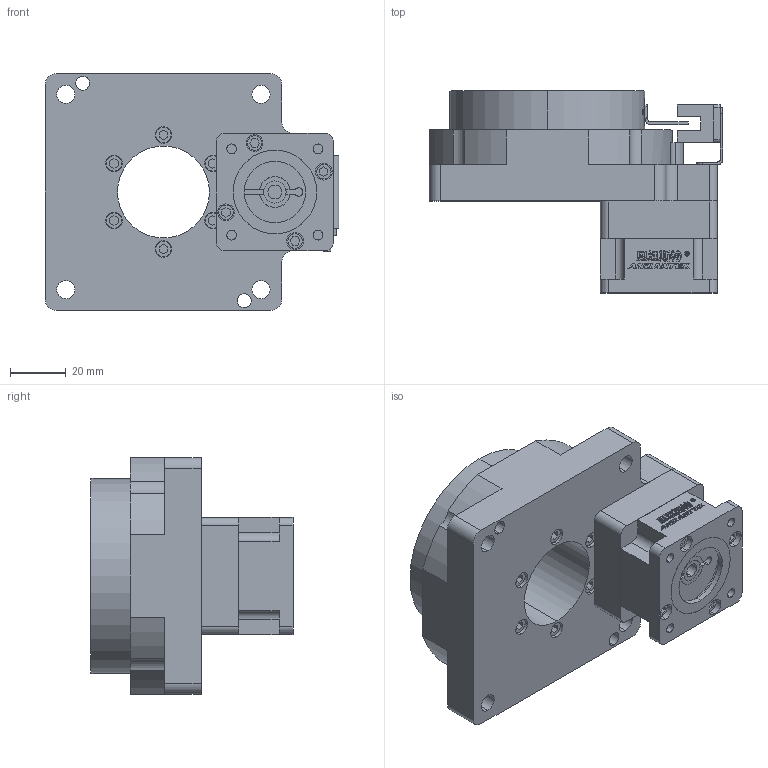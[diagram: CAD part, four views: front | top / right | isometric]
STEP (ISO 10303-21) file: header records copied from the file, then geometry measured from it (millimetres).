
FILE_DESCRIPTION(('Open CASCADE Model'),'2;1');
FILE_NAME('Open CASCADE Shape Model','2026-10-11T03:04:35',('Author'),( 'Open CASCADE'),'Open CASCADE STEP processor 7.8','Open CASCADE 7.8' ,'Unknown');
FILE_SCHEMA(('AUTOMOTIVE_DESIGN { 1 0 10303 214 1 1 1 1 }'));
Length unit declared in the file: millimetre
Products named in the file (3): NT85-15(配42步进 输入5-30 22-5 4-3.5-31-31); NT85-15(配42步进 输入5-30 22-5 4-3.5-31-31)-01; NT85-15(配42步进 输入5-30 22-5 4-3.5-31-31)-02
Assembly tree (2 placements, depth 2):
  NT85-15(配42步进 输入5-30 22-5 4-3.5-31-31)
    NT85-15(配42步进 输入5-30 22-5 4-3.5-31-31)-01
    NT85-15(配42步进 输入5-30 22-5 4-3.5-31-31)-02
Bounding box: 105.5 x 72.5 x 85 mm (x, y, z)
Volume: 243002.2 mm3; surface area: 56233.4 mm2
Topology: 8 solids, 14 shells, 1090 faces, 2937 edges, 1934 vertices
Faces by surface type: plane 847, cylinder 215, cone 28
Entity records: 72013 total; most frequent: CARTESIAN_POINT 15478, DIRECTION 9856, LINE 6675, VECTOR 6675, ORIENTED_EDGE 5818, PCURVE 5818, DEFINITIONAL_REPRESENTATION 5818, EDGE_CURVE 2909
